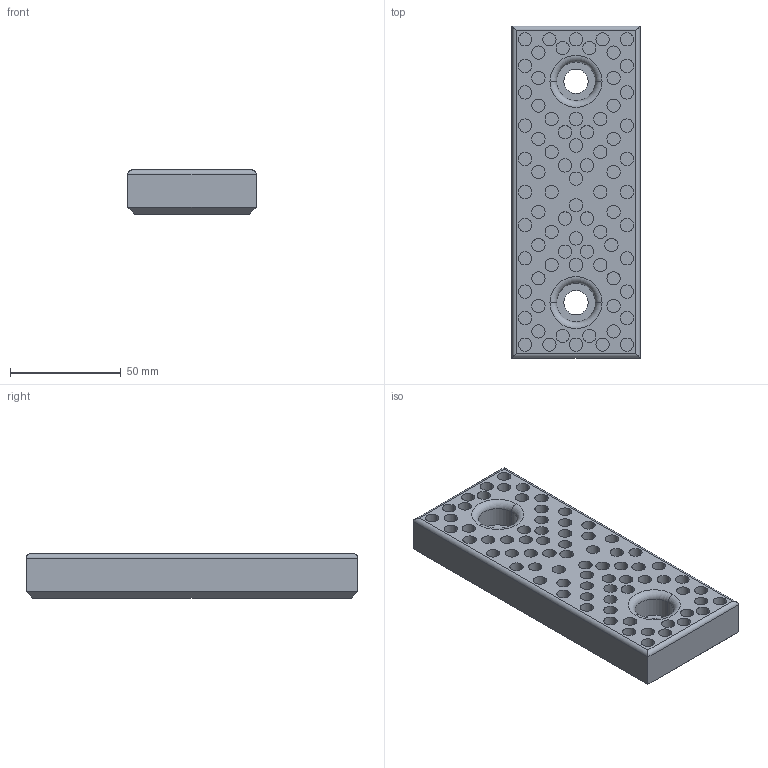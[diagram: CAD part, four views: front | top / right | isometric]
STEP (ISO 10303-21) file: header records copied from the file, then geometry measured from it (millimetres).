
FILE_DESCRIPTION (( 'STEP AP214' ), '1' );
FILE_NAME ('SW224-02-58x150.STEP', '2020-10-19T07:47:53', ( 'August' ), ( '' ), 'SwSTEP 2.0', 'SolidWorks 2018', '' );
FILE_SCHEMA (( 'AUTOMOTIVE_DESIGN' ));
Length unit declared in the file: millimetre
Products named in the file (1): SW224-02-58x150
Bounding box: 58 x 150 x 20 mm (x, y, z)
Volume: 149676.3 mm3; surface area: 35714.8 mm2
Topology: 1 solids, 1 shells, 256 faces, 516 edges, 340 vertices
Faces by surface type: cylinder 164, plane 88, torus 4
Entity records: 7350 total; most frequent: DIRECTION 1350, CARTESIAN_POINT 1297, ORIENTED_EDGE 1032, AXIS2_PLACEMENT_3D 585, EDGE_CURVE 516, VERTEX_POINT 340, EDGE_LOOP 338, CIRCLE 328
